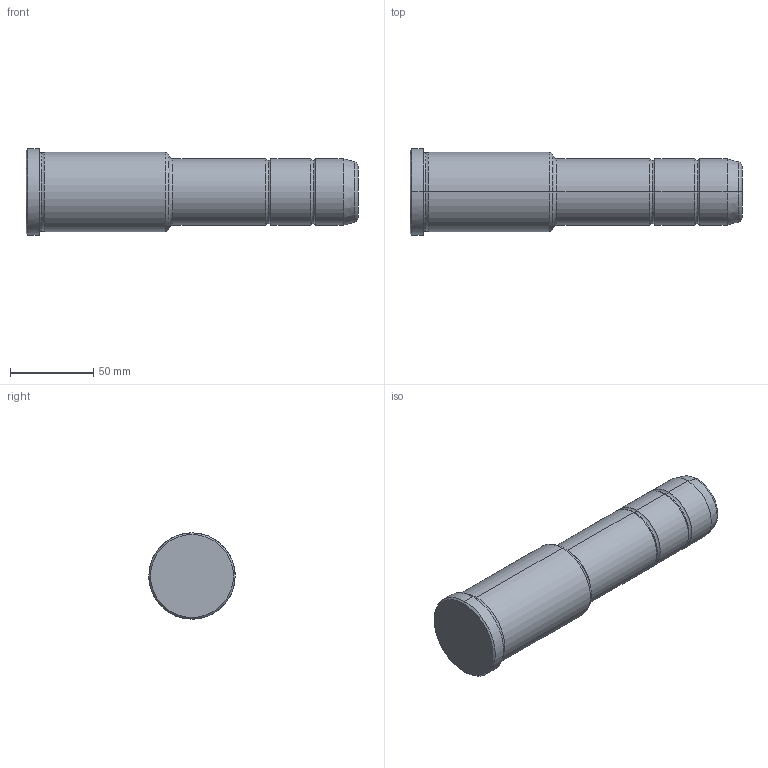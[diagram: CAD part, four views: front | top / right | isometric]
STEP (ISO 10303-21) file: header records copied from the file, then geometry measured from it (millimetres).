
FILE_DESCRIPTION(('CATIA V5 STEP Exchange'),'2;1');
FILE_NAME('C:\Users\Utente\Desktop\IO LAVORO\3D X SITO CF\X SITO\PLASTICA\351\351-40X86X200.stp','2021-10-07T14:17:24+00:00',('none'),('none'),'CATIA Version 5 Release 20 GA (IN-10)','CATIA V5 STEP AP203','none');
FILE_SCHEMA(('CONFIG_CONTROL_DESIGN'));
Length unit declared in the file: millimetre
Products named in the file (1): 351-40X86X200
Bounding box: 200 x 52 x 52 mm (x, y, z)
Volume: 299208 mm3; surface area: 31090 mm2
Topology: 1 solids, 1 shells, 36 faces, 102 edges, 70 vertices
Faces by surface type: torus 16, cylinder 10, cone 6, plane 4
Entity records: 1292 total; most frequent: CARTESIAN_POINT 321, ORIENTED_EDGE 204, DIRECTION 166, AXIS2_PLACEMENT_3D 115, EDGE_CURVE 102, CIRCLE 78, VERTEX_POINT 70, EDGE_LOOP 38
